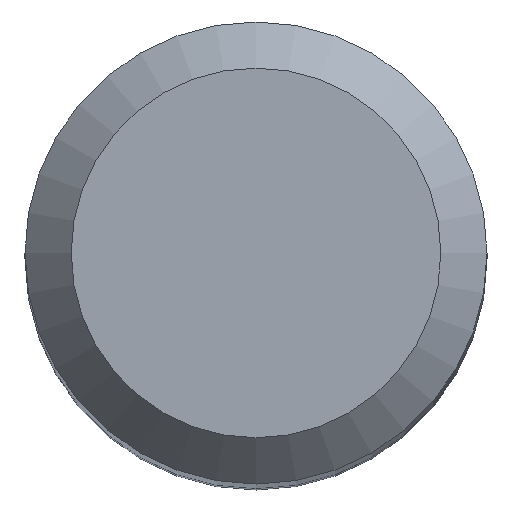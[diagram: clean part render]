
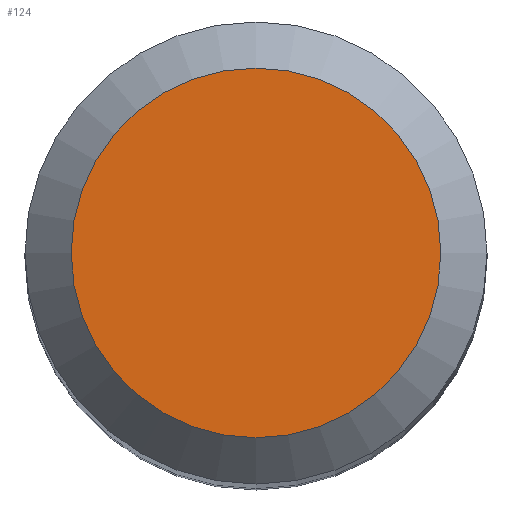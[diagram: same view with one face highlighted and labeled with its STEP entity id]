
A CAD part, top view. The second image highlights one B-rep face of the part: STEP entity #124.
In plain terms, the highlighted planar face has unit normal (0, 0, 1).
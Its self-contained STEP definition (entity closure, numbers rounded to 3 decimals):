
#108=CARTESIAN_POINT('',(4.0,0.0,75.0));
#109=DIRECTION('',(0.0,0.0,1.0));
#110=DIRECTION('',(1.0,0.0,0.0));
#111=AXIS2_PLACEMENT_3D('',#108,#109,#110);
#112=PLANE('',#111);
#113=CARTESIAN_POINT('',(-4.0,0.0,75.0));
#114=VERTEX_POINT('',#113);
#115=CARTESIAN_POINT('',(0.0,0.0,75.0));
#116=DIRECTION('',(0.0,0.0,-1.0));
#117=DIRECTION('',(-1.0,0.0,0.0));
#118=AXIS2_PLACEMENT_3D('',#115,#116,#117);
#119=CIRCLE('',#118,4.0);
#120=EDGE_CURVE('',#114,#114,#119,.T.);
#121=ORIENTED_EDGE('',*,*,#120,.F.);
#122=EDGE_LOOP('',(#121));
#123=FACE_OUTER_BOUND('',#122,.T.);
#124=ADVANCED_FACE('',(#123),#112,.T.);
